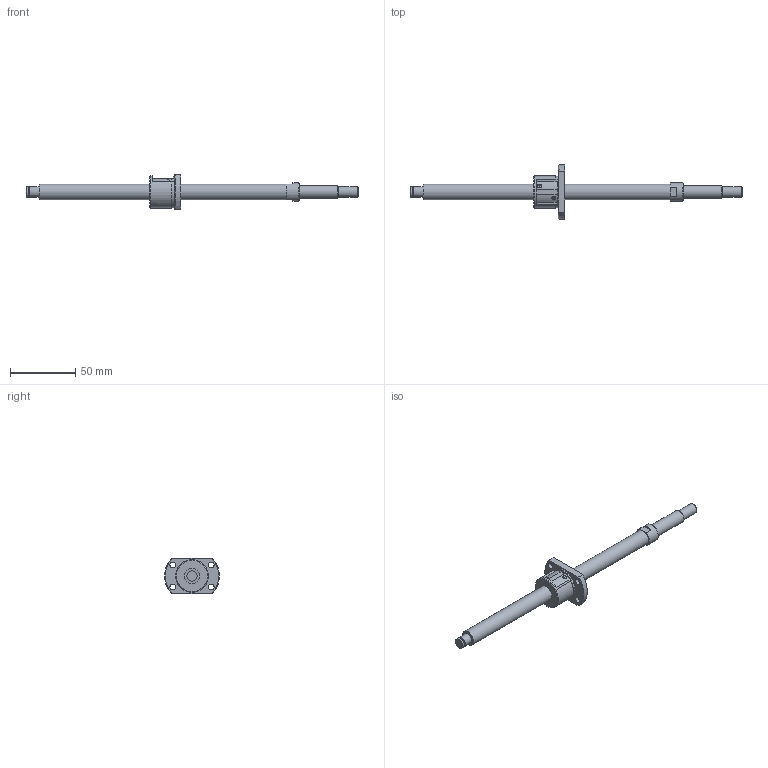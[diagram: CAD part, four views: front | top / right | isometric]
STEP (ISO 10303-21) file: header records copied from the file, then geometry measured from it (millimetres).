
FILE_DESCRIPTION(/* description */ ('STEP AP214'),/* implementation_level */ '2;1');
FILE_NAME(/* name */ 'SRT1202-186R255C7B0X(85Processing)',/* time_stamp */ '2026-08-06T15:12:16+02:00',/* author */ ('License CC BY-ND 4.0'),/* organization */ ('CADENAS'),/* preprocessor_version */ 'ST-DEVELOPER v20',/* originating_system */ 'PARTsolutions',/* authorisation */ ' ');
FILE_SCHEMA (('AUTOMOTIVE_DESIGN {1 0 10303 214 3 1 1}'));
Length unit declared in the file: millimetre
Products named in the file (3): SRT1202-186R255C7B0X(85Processing); SRT1202-186R270BCt7Processing77Shaft; SRT1202Nut
Assembly tree (2 placements, depth 2):
  SRT1202-186R255C7B0X(85Processing)
    SRT1202-186R270BCt7Processing77Shaft
    SRT1202Nut
Bounding box: 255 x 42 x 27 mm (x, y, z)
Volume: 37467.1 mm3; surface area: 14514.5 mm2
Topology: 2 solids, 2 shells, 75 faces, 173 edges, 110 vertices
Faces by surface type: plane 46, cylinder 18, cone 10, torus 1
Full cylindrical faces by diameter (mm): 4.5 x4, 7.6 x1, 8 x3, 10 x1, 12 x2, 14 x1, 24.5 x1, 25 x1
Entity records: 2055 total; most frequent: CARTESIAN_POINT 366, DIRECTION 352, ORIENTED_EDGE 286, EDGE_CURVE 143, AXIS2_PLACEMENT_3D 141, EDGE_LOOP 114, FACE_BOUND 114, VERTEX_POINT 101
